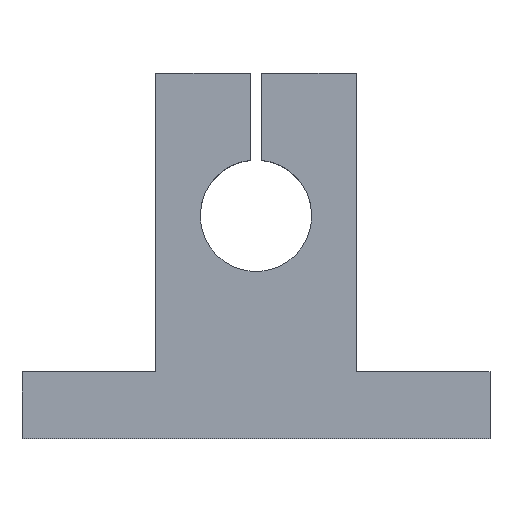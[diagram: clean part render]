
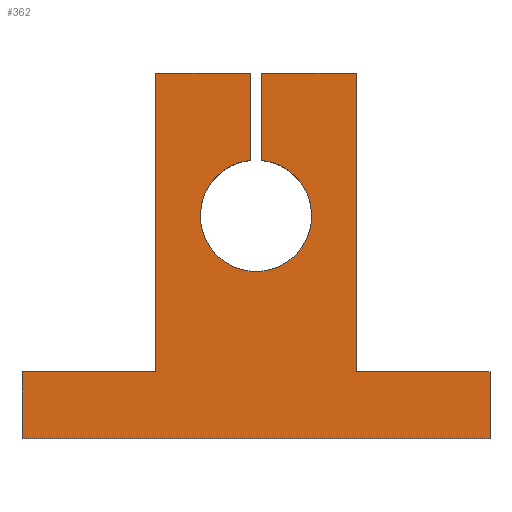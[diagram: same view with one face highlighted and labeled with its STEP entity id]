
A CAD part, top view. The second image highlights one B-rep face of the part: STEP entity #362.
In plain terms, the highlighted planar face has unit normal (0, 0, 1).
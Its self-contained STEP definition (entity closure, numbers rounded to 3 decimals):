
#27=CIRCLE('',#397,5.);
#47=ORIENTED_EDGE('',*,*,#139,.F.);
#48=ORIENTED_EDGE('',*,*,#135,.T.);
#49=ORIENTED_EDGE('',*,*,#140,.T.);
#50=ORIENTED_EDGE('',*,*,#141,.T.);
#51=ORIENTED_EDGE('',*,*,#142,.T.);
#52=ORIENTED_EDGE('',*,*,#143,.T.);
#53=ORIENTED_EDGE('',*,*,#144,.T.);
#54=ORIENTED_EDGE('',*,*,#145,.T.);
#55=ORIENTED_EDGE('',*,*,#146,.T.);
#56=ORIENTED_EDGE('',*,*,#147,.T.);
#57=ORIENTED_EDGE('',*,*,#133,.F.);
#58=ORIENTED_EDGE('',*,*,#148,.F.);
#133=EDGE_CURVE('',#179,#176,#213,.T.);
#135=EDGE_CURVE('',#181,#182,#214,.T.);
#139=EDGE_CURVE('',#181,#185,#218,.T.);
#140=EDGE_CURVE('',#182,#186,#219,.T.);
#141=EDGE_CURVE('',#186,#187,#220,.T.);
#142=EDGE_CURVE('',#187,#188,#221,.T.);
#143=EDGE_CURVE('',#188,#189,#222,.T.);
#144=EDGE_CURVE('',#189,#190,#223,.T.);
#145=EDGE_CURVE('',#190,#191,#224,.T.);
#146=EDGE_CURVE('',#191,#192,#225,.T.);
#147=EDGE_CURVE('',#192,#176,#226,.T.);
#148=EDGE_CURVE('',#185,#179,#27,.T.);
#176=VERTEX_POINT('',#528);
#179=VERTEX_POINT('',#533);
#181=VERTEX_POINT('',#539);
#182=VERTEX_POINT('',#540);
#185=VERTEX_POINT('',#548);
#186=VERTEX_POINT('',#550);
#187=VERTEX_POINT('',#552);
#188=VERTEX_POINT('',#554);
#189=VERTEX_POINT('',#556);
#190=VERTEX_POINT('',#558);
#191=VERTEX_POINT('',#560);
#192=VERTEX_POINT('',#562);
#213=LINE('',#534,#247);
#214=LINE('',#538,#248);
#218=LINE('',#547,#252);
#219=LINE('',#549,#253);
#220=LINE('',#551,#254);
#221=LINE('',#553,#255);
#222=LINE('',#555,#256);
#223=LINE('',#557,#257);
#224=LINE('',#559,#258);
#225=LINE('',#561,#259);
#226=LINE('',#563,#260);
#247=VECTOR('',#432,1000.);
#248=VECTOR('',#437,1000.);
#252=VECTOR('',#443,1000.);
#253=VECTOR('',#444,1000.);
#254=VECTOR('',#445,1000.);
#255=VECTOR('',#446,1000.);
#256=VECTOR('',#447,1000.);
#257=VECTOR('',#448,1000.);
#258=VECTOR('',#449,1000.);
#259=VECTOR('',#450,1000.);
#260=VECTOR('',#451,1000.);
#281=EDGE_LOOP('',(#47,#48,#49,#50,#51,#52,#53,#54,#55,#56,#57,#58));
#315=FACE_BOUND('',#281,.T.);
#348=PLANE('',#396);
#362=ADVANCED_FACE('',(#315),#348,.T.);
#396=AXIS2_PLACEMENT_3D('',#546,#441,#442);
#397=AXIS2_PLACEMENT_3D('',#564,#452,#453);
#432=DIRECTION('',(0.,1.,0.));
#437=DIRECTION('',(-1.,0.,0.));
#441=DIRECTION('',(0.,0.,1.));
#442=DIRECTION('',(1.,0.,0.));
#443=DIRECTION('',(0.,-1.,0.));
#444=DIRECTION('',(0.,-1.,0.));
#445=DIRECTION('',(-1.,0.,0.));
#446=DIRECTION('',(0.,-1.,0.));
#447=DIRECTION('',(1.,0.,0.));
#448=DIRECTION('',(0.,1.,0.));
#449=DIRECTION('',(-1.,0.,0.));
#450=DIRECTION('',(0.,1.,0.));
#451=DIRECTION('',(-1.,0.,0.));
#452=DIRECTION('',(0.,0.,1.));
#453=DIRECTION('',(1.,0.,0.));
#528=CARTESIAN_POINT('',(0.5,12.8,7.));
#533=CARTESIAN_POINT('',(0.5,4.975,7.));
#534=CARTESIAN_POINT('',(0.5,14.254,7.));
#538=CARTESIAN_POINT('',(9.,12.8,7.));
#539=CARTESIAN_POINT('',(-0.5,12.8,7.));
#540=CARTESIAN_POINT('',(-9.,12.8,7.));
#546=CARTESIAN_POINT('',(21.,-14.,7.));
#547=CARTESIAN_POINT('',(-0.5,14.254,7.));
#548=CARTESIAN_POINT('',(-0.5,4.975,7.));
#549=CARTESIAN_POINT('',(-9.,-14.,7.));
#550=CARTESIAN_POINT('',(-9.,-14.,7.));
#551=CARTESIAN_POINT('',(-21.,-14.,7.));
#552=CARTESIAN_POINT('',(-21.,-14.,7.));
#553=CARTESIAN_POINT('',(-21.,-20.,7.));
#554=CARTESIAN_POINT('',(-21.,-20.,7.));
#555=CARTESIAN_POINT('',(-21.,-20.,7.));
#556=CARTESIAN_POINT('',(21.,-20.,7.));
#557=CARTESIAN_POINT('',(21.,-20.,7.));
#558=CARTESIAN_POINT('',(21.,-14.,7.));
#559=CARTESIAN_POINT('',(21.,-14.,7.));
#560=CARTESIAN_POINT('',(9.,-14.,7.));
#561=CARTESIAN_POINT('',(9.,-14.,7.));
#562=CARTESIAN_POINT('',(9.,12.8,7.));
#563=CARTESIAN_POINT('',(9.,12.8,7.));
#564=CARTESIAN_POINT('',(0.,0.,7.));
